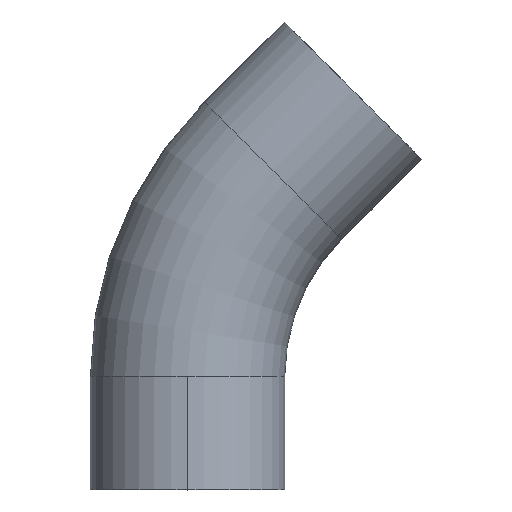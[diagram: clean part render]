
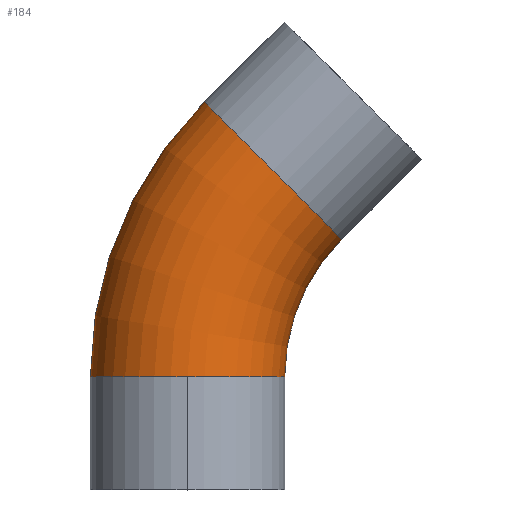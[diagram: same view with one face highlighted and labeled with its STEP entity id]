
A CAD part, top view. The second image highlights one B-rep face of the part: STEP entity #184.
In plain terms, the highlighted toroidal (fillet/blend) face has major radius 152.4 mm and minor radius 50.8 mm.
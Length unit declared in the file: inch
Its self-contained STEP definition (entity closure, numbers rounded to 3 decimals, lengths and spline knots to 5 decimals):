
#18 = CARTESIAN_POINT ( 'NONE',  ( 6., 2.32672, 0. ) ) ;
#22 = CARTESIAN_POINT ( 'NONE',  ( 2., 2.32672, 0. ) ) ;
#26 = ORIENTED_EDGE ( 'NONE', *, *, #320, .F. ) ;
#35 = ORIENTED_EDGE ( 'NONE', *, *, #323, .T. ) ;
#48 = DIRECTION ( 'NONE',  ( 1., 0., 0. ) ) ;
#62 = VERTEX_POINT ( 'NONE', #131 ) ;
#66 = EDGE_LOOP ( 'NONE', ( #26, #35, #313, #381, #496 ) ) ;
#78 = CIRCLE ( 'NONE', #162, 2. ) ;
#84 = DIRECTION ( 'NONE',  ( 0.707, 0.707, 0. ) ) ;
#87 = CARTESIAN_POINT ( 'NONE',  ( 6., 2.32672, 0. ) ) ;
#94 = AXIS2_PLACEMENT_3D ( 'NONE', #87, #382, #125 ) ;
#125 = DIRECTION ( 'NONE',  ( 1., 0., 0. ) ) ;
#127 = DIRECTION ( 'NONE',  ( 0., 1., 0. ) ) ;
#131 = CARTESIAN_POINT ( 'NONE',  ( 0., 2.32672, 2. ) ) ;
#134 = VERTEX_POINT ( 'NONE', #147 ) ;
#138 = CIRCLE ( 'NONE', #94, 4. ) ;
#147 = CARTESIAN_POINT ( 'NONE',  ( -2., 2.32672, 0. ) ) ;
#150 = DIRECTION ( 'NONE',  ( 1., 0., 0. ) ) ;
#156 = AXIS2_PLACEMENT_3D ( 'NONE', #348, #84, #380 ) ;
#158 = CARTESIAN_POINT ( 'NONE',  ( 0.34315, 7.98357, 0. ) ) ;
#162 = AXIS2_PLACEMENT_3D ( 'NONE', #213, #480, #264 ) ;
#167 = AXIS2_PLACEMENT_3D ( 'NONE', #383, #127, #421 ) ;
#175 = AXIS2_PLACEMENT_3D ( 'NONE', #18, #300, #48 ) ;
#184 = ADVANCED_FACE ( 'NONE', ( #268 ), #461, .T. ) ;
#213 = CARTESIAN_POINT ( 'NONE',  ( 0., 2.32672, 0. ) ) ;
#240 = AXIS2_PLACEMENT_3D ( 'NONE', #368, #494, #150 ) ;
#264 = DIRECTION ( 'NONE',  ( -1., 0., 0. ) ) ;
#268 = FACE_OUTER_BOUND ( 'NONE', #66, .T. ) ;
#295 = CIRCLE ( 'NONE', #175, 8. ) ;
#300 = DIRECTION ( 'NONE',  ( 0., 0., 1. ) ) ;
#313 = ORIENTED_EDGE ( 'NONE', *, *, #325, .T. ) ;
#320 = EDGE_CURVE ( 'NONE', #460, #410, #416, .T. ) ;
#323 = EDGE_CURVE ( 'NONE', #460, #134, #295, .T. ) ;
#325 = EDGE_CURVE ( 'NONE', #134, #62, #484, .T. ) ;
#327 = EDGE_CURVE ( 'NONE', #62, #392, #78, .T. ) ;
#340 = EDGE_CURVE ( 'NONE', #410, #392, #138, .T. ) ;
#348 = CARTESIAN_POINT ( 'NONE',  ( 1.75736, 6.56936, 0. ) ) ;
#368 = CARTESIAN_POINT ( 'NONE',  ( 6., 2.32672, 0. ) ) ;
#369 = CARTESIAN_POINT ( 'NONE',  ( 3.17157, 5.15515, 0. ) ) ;
#380 = DIRECTION ( 'NONE',  ( -0.707, 0.707, 0. ) ) ;
#381 = ORIENTED_EDGE ( 'NONE', *, *, #327, .T. ) ;
#382 = DIRECTION ( 'NONE',  ( 0., 0., 1. ) ) ;
#383 = CARTESIAN_POINT ( 'NONE',  ( 0., 2.32672, 0. ) ) ;
#392 = VERTEX_POINT ( 'NONE', #22 ) ;
#410 = VERTEX_POINT ( 'NONE', #369 ) ;
#416 = CIRCLE ( 'NONE', #156, 2. ) ;
#421 = DIRECTION ( 'NONE',  ( -1., 0., 0. ) ) ;
#460 = VERTEX_POINT ( 'NONE', #158 ) ;
#461 = TOROIDAL_SURFACE ( 'NONE', #240, 6., 2. ) ;
#480 = DIRECTION ( 'NONE',  ( 0., 1., 0. ) ) ;
#484 = CIRCLE ( 'NONE', #167, 2. ) ;
#494 = DIRECTION ( 'NONE',  ( 0., 0., 1. ) ) ;
#496 = ORIENTED_EDGE ( 'NONE', *, *, #340, .F. ) ;
